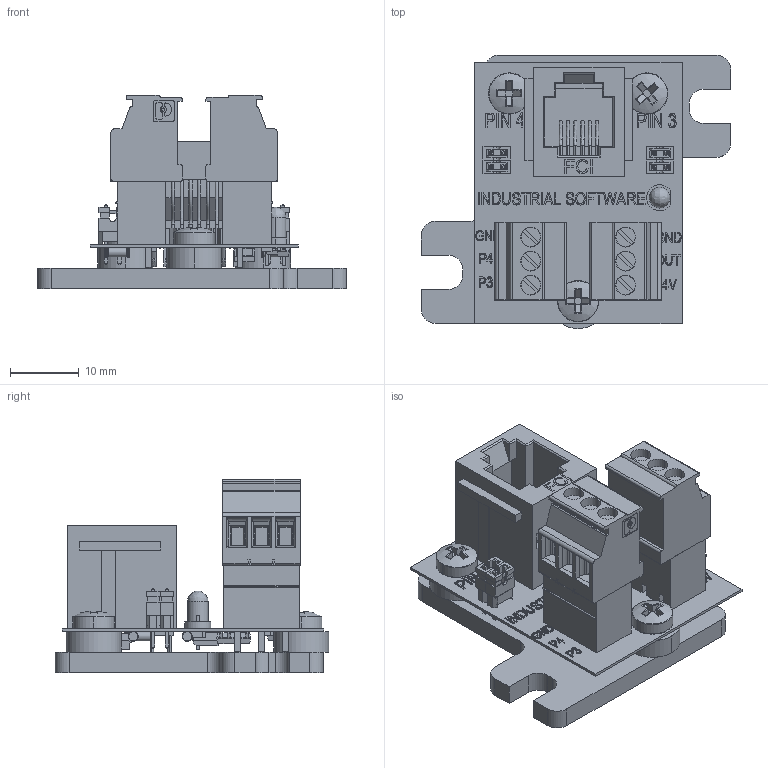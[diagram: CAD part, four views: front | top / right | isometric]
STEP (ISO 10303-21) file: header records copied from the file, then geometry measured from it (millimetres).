
FILE_DESCRIPTION (( 'STEP AP214' ), '1' );
FILE_NAME ('ERSC_SE6.STEP', '2021-07-16T08:31:09', ( '' ), ( '' ), 'SwSTEP 2.0', 'SolidWorks 2021', '' );
FILE_SCHEMA (( 'AUTOMOTIVE_DESIGN' ));
Length unit declared in the file: millimetre
Products named in the file (5): vtulka; ERSC_SE6_PCB; ERSC_SE6; ERSC_S_P; M3x5
Assembly tree (8 placements, depth 2):
  ERSC_SE6
    ERSC_SE6_PCB
    ERSC_S_P
    M3x5  x3
    vtulka  x3
Bounding box: 45 x 39.8 x 28.16 mm (x, y, z)
Volume: 10437.2 mm3; surface area: 14539.6 mm2
Topology: 42 solids, 42 shells, 3229 faces, 8467 edges, 5483 vertices
Faces by surface type: plane 2225, cylinder 536, bspline 333, torus 102, cone 23, sphere 10
Entity records: 145899 total; most frequent: CARTESIAN_POINT 42069, ORIENTED_EDGE 16378, DIRECTION 13978, EDGE_CURVE 8189, LINE 6116, VECTOR 6116, VERTEX_POINT 5319, AXIS2_PLACEMENT_3D 3931
